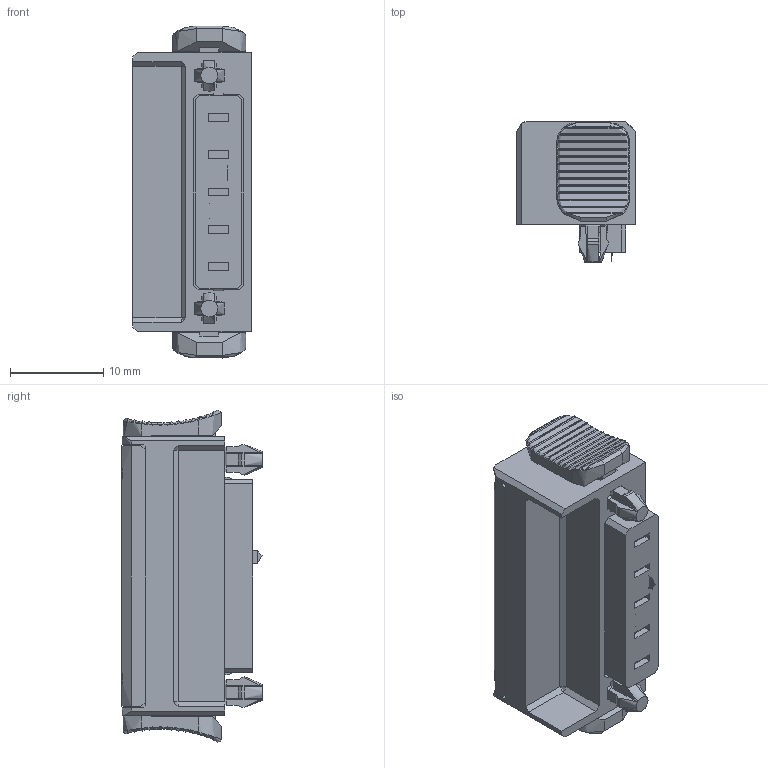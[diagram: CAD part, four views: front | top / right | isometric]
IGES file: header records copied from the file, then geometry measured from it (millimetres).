
Global section: file name: 21.05.212.113.2 v4; native system: unknown; preprocessor: unknown; author: unknown; organization: unknown; date: 20221117.010459; units: millimetre
Bounding box: 12.7 x 15.02 x 35.62 mm (x, y, z)
Volume: 3569.1 mm3; surface area: 3329.8 mm2
Topology: 1 solids, 1 shells, 1072 faces, 3018 edges, 1936 vertices
Faces by surface type: bspline 1072
